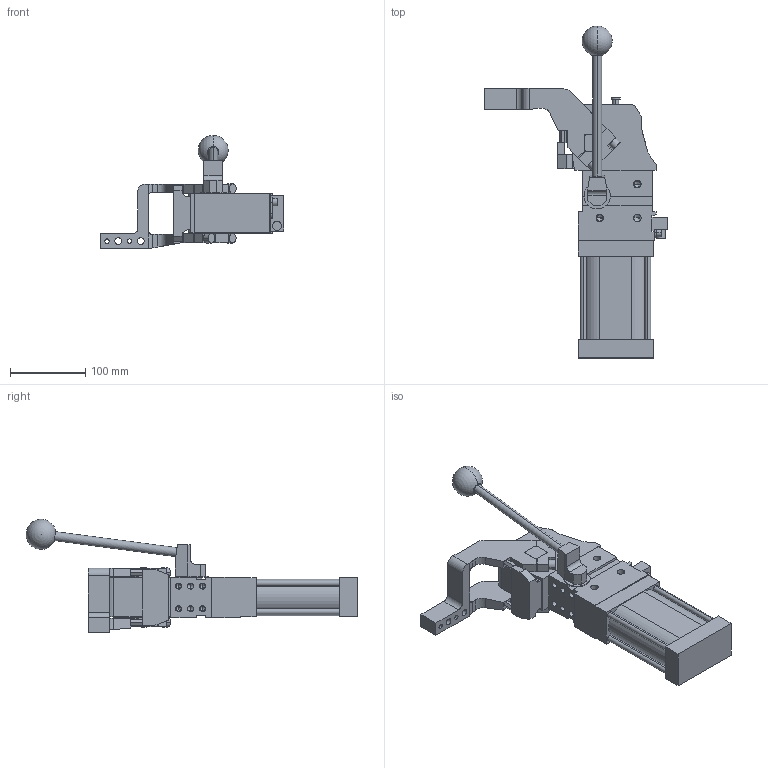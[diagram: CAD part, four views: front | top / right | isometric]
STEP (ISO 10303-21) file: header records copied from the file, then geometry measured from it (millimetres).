
FILE_DESCRIPTION (( 'STEP AP214' ), '1' );
FILE_NAME ('cplm63latv3di1g_135.STEP', '2023-01-26T15:08:58', ( '' ), ( '' ), 'SwSTEP 2.0', 'SolidWorks 2022', '' );
FILE_SCHEMA (( 'AUTOMOTIVE_DESIGN' ));
Length unit declared in the file: millimetre
Products named in the file (5): blocchetto_VEP_0; cplm63latv3di1g_135; leva_v3d_cpl63t; meccanica_cplm_63_tassello_esterno; comando_manuale_cplm_63
Assembly tree (4 placements, depth 2):
  cplm63latv3di1g_135
    meccanica_cplm_63_tassello_esterno
    blocchetto_VEP_0
    leva_v3d_cpl63t
    comando_manuale_cplm_63
Bounding box: 244.5 x 442.23 x 151 mm (x, y, z)
Volume: 1917899 mm3; surface area: 218346.1 mm2
Topology: 4 solids, 4 shells, 465 faces, 1227 edges, 765 vertices
Faces by surface type: plane 250, cylinder 163, cone 50, sphere 2
Entity records: 15625 total; most frequent: CARTESIAN_POINT 2507, DIRECTION 2467, ORIENTED_EDGE 2352, EDGE_CURVE 1176, AXIS2_PLACEMENT_3D 832, VECTOR 803, LINE 803, VERTEX_POINT 762
